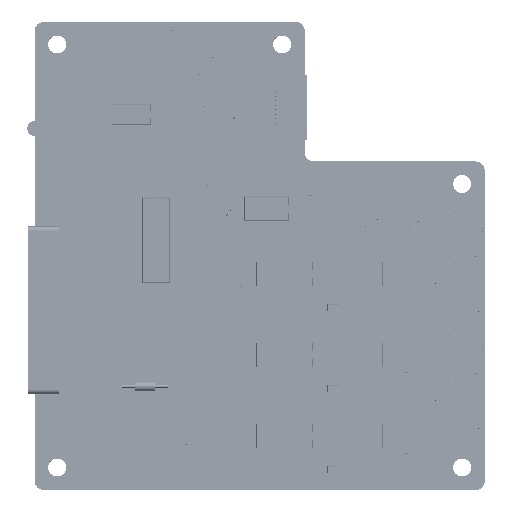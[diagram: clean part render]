
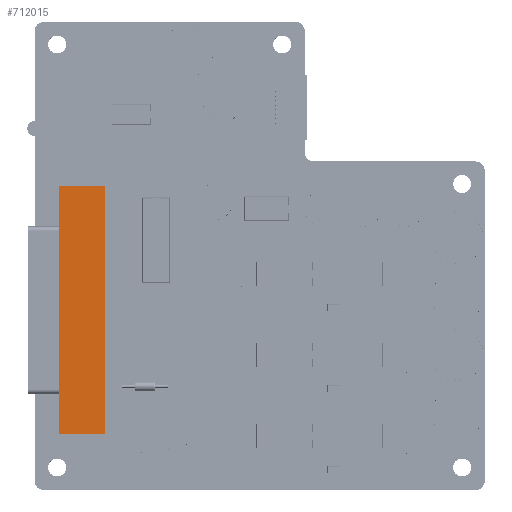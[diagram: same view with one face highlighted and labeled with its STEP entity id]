
A CAD part, top view. The second image highlights one B-rep face of the part: STEP entity #712015.
In plain terms, the highlighted planar face has unit normal (0, 0, 1).
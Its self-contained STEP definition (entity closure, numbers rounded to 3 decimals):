
#711880=CARTESIAN_POINT('Vertex',(-27.5,-4.198,15.)) ;
#711887=CARTESIAN_POINT('Vertex',(27.5,-4.198,15.)) ;
#711890=CARTESIAN_POINT('Line Origine',(0.,-4.198,15.)) ;
#711949=CARTESIAN_POINT('Vertex',(27.5,6.,15.)) ;
#711952=CARTESIAN_POINT('Line Origine',(27.5,0.901,15.)) ;
#711971=CARTESIAN_POINT('Line Origine',(-27.5,0.901,15.)) ;
#711975=CARTESIAN_POINT('Vertex',(-27.5,6.,15.)) ;
#711999=CARTESIAN_POINT('Axis2P3D Location',(0.,0.,15.)) ;
#712004=CARTESIAN_POINT('Line Origine',(0.,6.,15.)) ;
#711891=DIRECTION('Vector Direction',(1.,0.,0.)) ;
#711953=DIRECTION('Vector Direction',(0.,1.,0.)) ;
#711972=DIRECTION('Vector Direction',(0.,-1.,0.)) ;
#712000=DIRECTION('Axis2P3D Direction',(0.,0.,1.)) ;
#712001=DIRECTION('Axis2P3D XDirection',(1.,0.,0.)) ;
#712005=DIRECTION('Vector Direction',(-1.,0.,0.)) ;
#712002=AXIS2_PLACEMENT_3D('Plane Axis2P3D',#711999,#712000,#712001) ;
#712010=ORIENTED_EDGE('',*,*,#711956,.T.) ;
#712011=ORIENTED_EDGE('',*,*,#712008,.T.) ;
#712012=ORIENTED_EDGE('',*,*,#711977,.T.) ;
#712013=ORIENTED_EDGE('',*,*,#711894,.T.) ;
#711892=VECTOR('Line Direction',#711891,1.) ;
#711954=VECTOR('Line Direction',#711953,1.) ;
#711973=VECTOR('Line Direction',#711972,1.) ;
#712006=VECTOR('Line Direction',#712005,1.) ;
#712015=ADVANCED_FACE('Body',(#712014),#712003,.T.) ;
#711894=EDGE_CURVE('',#711881,#711888,#711893,.T.) ;
#711956=EDGE_CURVE('',#711888,#711950,#711955,.T.) ;
#711977=EDGE_CURVE('',#711976,#711881,#711974,.T.) ;
#712008=EDGE_CURVE('',#711950,#711976,#712007,.T.) ;
#712009=EDGE_LOOP('',(#712010,#712011,#712012,#712013)) ;
#712014=FACE_OUTER_BOUND('',#712009,.T.) ;
#711893=LINE('Line',#711890,#711892) ;
#711955=LINE('Line',#711952,#711954) ;
#711974=LINE('Line',#711971,#711973) ;
#712007=LINE('Line',#712004,#712006) ;
#712003=PLANE('',#712002) ;
#711881=VERTEX_POINT('',#711880) ;
#711888=VERTEX_POINT('',#711887) ;
#711950=VERTEX_POINT('',#711949) ;
#711976=VERTEX_POINT('',#711975) ;
